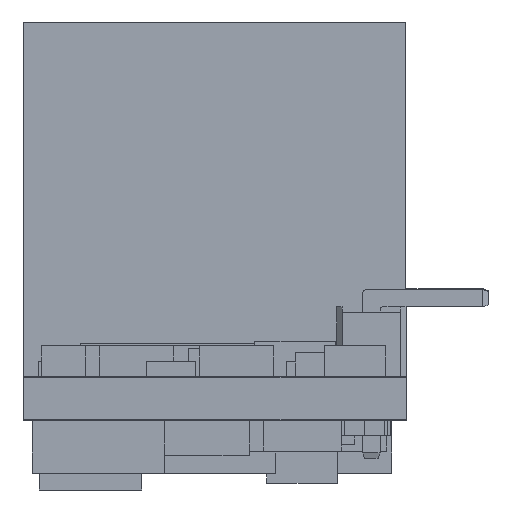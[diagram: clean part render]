
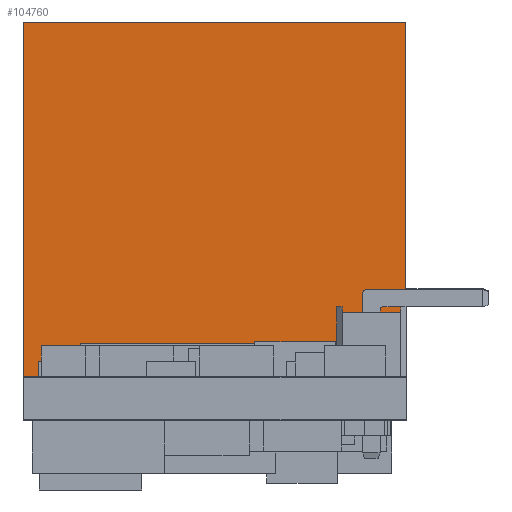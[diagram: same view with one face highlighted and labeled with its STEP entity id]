
A CAD part, left-side view. The second image highlights one B-rep face of the part: STEP entity #104760.
In plain terms, the highlighted face is a extrusion surface.
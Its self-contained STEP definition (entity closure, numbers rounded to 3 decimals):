
#70134 = EDGE_CURVE('',#70135,#70137,#70139,.T.);
#70135 = VERTEX_POINT('',#70136);
#70136 = CARTESIAN_POINT('',(17.958,12.725,12.954));
#70137 = VERTEX_POINT('',#70138);
#70138 = CARTESIAN_POINT('',(17.958,-1.245,12.954));
#70139 = LINE('',#70140,#70141);
#70140 = CARTESIAN_POINT('',(17.958,12.725,12.954));
#70141 = VECTOR('',#70142,1.);
#70142 = DIRECTION('',(0.,-1.,0.));
#70186 = VERTEX_POINT('',#70187);
#70187 = CARTESIAN_POINT('',(17.958,12.725,0.));
#70193 = EDGE_CURVE('',#70186,#70135,#70194,.T.);
#70194 = LINE('',#70195,#70196);
#70195 = CARTESIAN_POINT('',(17.958,12.725,0.));
#70196 = VECTOR('',#70197,1.);
#70197 = DIRECTION('',(0.,0.,1.));
#104693 = EDGE_CURVE('',#104694,#70186,#104696,.T.);
#104694 = VERTEX_POINT('',#104695);
#104695 = CARTESIAN_POINT('',(17.958,-1.245,0.));
#104696 = LINE('',#104697,#104698);
#104697 = CARTESIAN_POINT('',(17.958,-1.245,0.));
#104698 = VECTOR('',#104699,1.);
#104699 = DIRECTION('',(0.,1.,0.));
#104746 = EDGE_CURVE('',#70137,#104694,#104747,.T.);
#104747 = LINE('',#104748,#104749);
#104748 = CARTESIAN_POINT('',(17.958,-1.245,12.954));
#104749 = VECTOR('',#104750,1.);
#104750 = DIRECTION('',(0.,0.,-1.));
#104760 = ADVANCED_FACE('',(#104761),#104767,.F.);
#104761 = FACE_BOUND('',#104762,.F.);
#104762 = EDGE_LOOP('',(#104763,#104764,#104765,#104766));
#104763 = ORIENTED_EDGE('',*,*,#70134,.F.);
#104764 = ORIENTED_EDGE('',*,*,#70193,.F.);
#104765 = ORIENTED_EDGE('',*,*,#104693,.F.);
#104766 = ORIENTED_EDGE('',*,*,#104746,.F.);
#104767 = SURFACE_OF_LINEAR_EXTRUSION('',#104768,#104772);
#104768 = LINE('',#104769,#104770);
#104769 = CARTESIAN_POINT('',(17.958,-1.245,0.));
#104770 = VECTOR('',#104771,1.);
#104771 = DIRECTION('',(0.,0.,1.));
#104772 = VECTOR('',#104773,1.);
#104773 = DIRECTION('',(0.,1.,0.));
